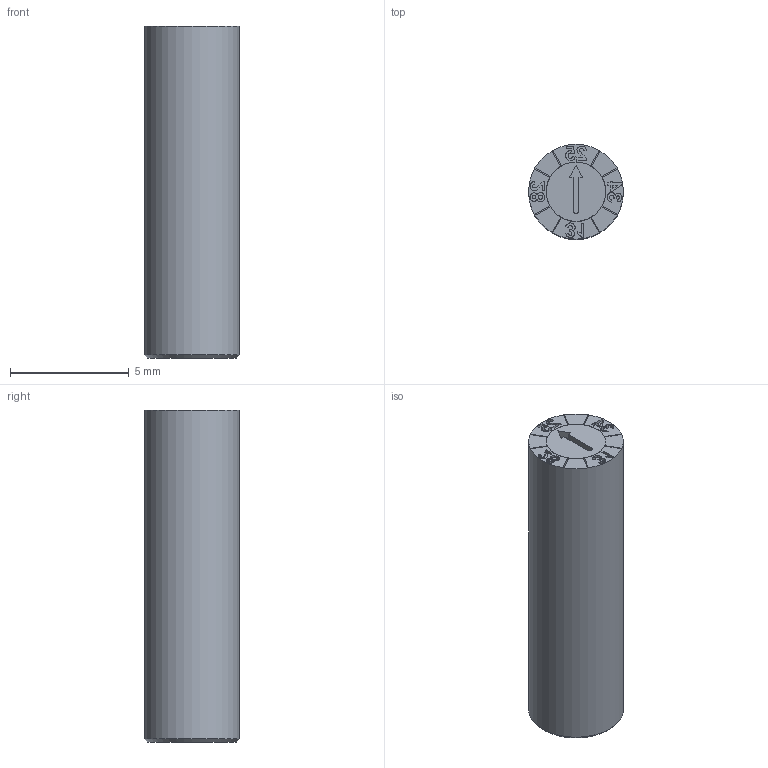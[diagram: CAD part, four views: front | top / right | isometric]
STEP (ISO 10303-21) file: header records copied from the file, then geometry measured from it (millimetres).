
FILE_DESCRIPTION(/* description */ (''),/* implementation_level */ '2;1');
FILE_NAME(/* name */ 'IMC-D2000-YEE4.step',/* time_stamp */ '2025-06-24T13:26:12+02:00',/* author */ (''),/* organization */ (''),/* preprocessor_version */ 'ST-DEVELOPER v20.1',/* originating_system */ 'Autodesk Translation Framework v14.10.0.0',/* authorisation */ '');
FILE_SCHEMA (('AUTOMOTIVE_DESIGN { 1 0 10303 214 3 1 1 }'));
Length unit declared in the file: millimetre
Products named in the file (1): D2000-YEE4
Bounding box: 4 x 4 x 14 mm (x, y, z)
Volume: 168.7 mm3; surface area: 238.5 mm2
Topology: 1 solids, 1 shells, 235 faces, 655 edges, 436 vertices
Faces by surface type: bspline 133, plane 86, cylinder 13, cone 3
Full cylindrical faces by diameter (mm): 1.623 x1, 2.5 x1, 2.51 x1, 4 x1
Entity records: 8776 total; most frequent: CARTESIAN_POINT 3587, ORIENTED_EDGE 1308, EDGE_CURVE 654, DIRECTION 639, VERTEX_POINT 436, LINE 343, VECTOR 343, B_SPLINE_CURVE_WITH_KNOTS 266
